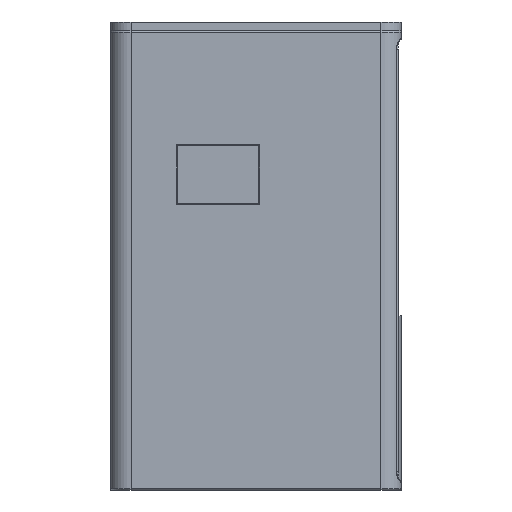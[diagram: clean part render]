
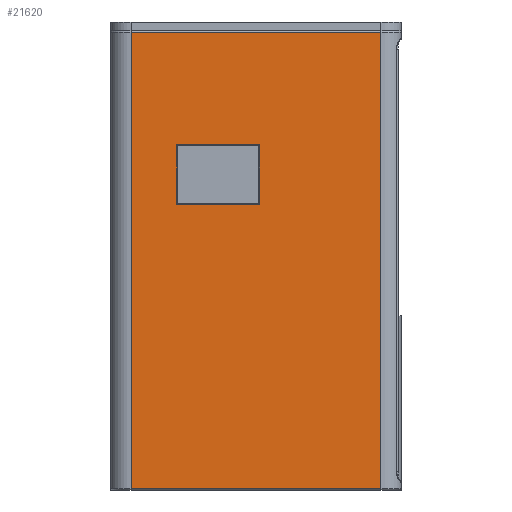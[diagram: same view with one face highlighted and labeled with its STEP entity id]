
A CAD part, left-side view. The second image highlights one B-rep face of the part: STEP entity #21620.
In plain terms, the highlighted planar face has unit normal (-1, 0, 0).
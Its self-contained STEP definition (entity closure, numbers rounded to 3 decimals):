
#17002 = CYLINDRICAL_SURFACE('',#17003,7.);
#17003 = AXIS2_PLACEMENT_3D('',#17004,#17005,#17006);
#17004 = CARTESIAN_POINT('',(7.,7.,0.));
#17005 = DIRECTION('',(0.,0.,1.));
#17006 = DIRECTION('',(-1.,-0.,0.));
#18797 = PLANE('',#18798);
#18798 = AXIS2_PLACEMENT_3D('',#18799,#18800,#18801);
#18799 = CARTESIAN_POINT('',(0.15,77.,98.35));
#18800 = DIRECTION('',(0.707,0.,
    -0.707));
#18801 = DIRECTION('',(0.,-1.,0.));
#18851 = PLANE('',#18852);
#18852 = AXIS2_PLACEMENT_3D('',#18853,#18854,#18855);
#18853 = CARTESIAN_POINT('',(0.15,77.15,98.5));
#18854 = DIRECTION('',(-0.707,-0.707,
    0.));
#18855 = DIRECTION('',(0.,0.,1.));
#18905 = PLANE('',#18906);
#18906 = AXIS2_PLACEMENT_3D('',#18907,#18908,#18909);
#18907 = CARTESIAN_POINT('',(0.15,48.85,98.5));
#18908 = DIRECTION('',(0.707,-0.707,
    0.));
#18909 = DIRECTION('',(0.,0.,1.));
#18957 = PLANE('',#18958);
#18958 = AXIS2_PLACEMENT_3D('',#18959,#18960,#18961);
#18959 = CARTESIAN_POINT('',(0.15,77.,118.65));
#18960 = DIRECTION('',(-0.707,0.,
    -0.707));
#18961 = DIRECTION('',(0.,-1.,0.));
#19147 = CYLINDRICAL_SURFACE('',#19148,0.5);
#19148 = AXIS2_PLACEMENT_3D('',#19149,#19150,#19151);
#19149 = CARTESIAN_POINT('',(0.5,7.,157.5));
#19150 = DIRECTION('',(-0.,1.,0.));
#19151 = DIRECTION('',(0.,0.,1.));
#19814 = VERTEX_POINT('',#19815);
#19815 = CARTESIAN_POINT('',(0.,7.,157.5));
#19837 = EDGE_CURVE('',#19838,#19814,#19840,.T.);
#19838 = VERTEX_POINT('',#19839);
#19839 = CARTESIAN_POINT('',(0.,7.,0.5));
#19840 = SURFACE_CURVE('',#19841,(#19845,#19852),.PCURVE_S1.);
#19841 = LINE('',#19842,#19843);
#19842 = CARTESIAN_POINT('',(0.,7.,0.));
#19843 = VECTOR('',#19844,1.);
#19844 = DIRECTION('',(0.,0.,1.));
#19845 = PCURVE('',#17002,#19846);
#19846 = DEFINITIONAL_REPRESENTATION('',(#19847),#19851);
#19847 = LINE('',#19848,#19849);
#19848 = CARTESIAN_POINT('',(0.,0.));
#19849 = VECTOR('',#19850,1.);
#19850 = DIRECTION('',(0.,1.));
#19851 = ( GEOMETRIC_REPRESENTATION_CONTEXT(2)
PARAMETRIC_REPRESENTATION_CONTEXT() REPRESENTATION_CONTEXT('2D SPACE',''
  ) );
#19852 = PCURVE('',#19853,#19858);
#19853 = PLANE('',#19854);
#19854 = AXIS2_PLACEMENT_3D('',#19855,#19856,#19857);
#19855 = CARTESIAN_POINT('',(0.,0.,0.));
#19856 = DIRECTION('',(1.,0.,-0.));
#19857 = DIRECTION('',(0.,0.,1.));
#19858 = DEFINITIONAL_REPRESENTATION('',(#19859),#19863);
#19859 = LINE('',#19860,#19861);
#19860 = CARTESIAN_POINT('',(0.,-7.));
#19861 = VECTOR('',#19862,1.);
#19862 = DIRECTION('',(1.,0.));
#19863 = ( GEOMETRIC_REPRESENTATION_CONTEXT(2)
PARAMETRIC_REPRESENTATION_CONTEXT() REPRESENTATION_CONTEXT('2D SPACE',''
  ) );
#20173 = VERTEX_POINT('',#20174);
#20174 = CARTESIAN_POINT('',(0.,77.3,98.2));
#20197 = VERTEX_POINT('',#20198);
#20198 = CARTESIAN_POINT('',(0.,48.7,98.2));
#20219 = EDGE_CURVE('',#20173,#20197,#20220,.T.);
#20220 = SURFACE_CURVE('',#20221,(#20225,#20232),.PCURVE_S1.);
#20221 = LINE('',#20222,#20223);
#20222 = CARTESIAN_POINT('',(0.,77.,98.2));
#20223 = VECTOR('',#20224,1.);
#20224 = DIRECTION('',(0.,-1.,0.));
#20225 = PCURVE('',#18797,#20226);
#20226 = DEFINITIONAL_REPRESENTATION('',(#20227),#20231);
#20227 = LINE('',#20228,#20229);
#20228 = CARTESIAN_POINT('',(0.,0.212));
#20229 = VECTOR('',#20230,1.);
#20230 = DIRECTION('',(1.,0.));
#20231 = ( GEOMETRIC_REPRESENTATION_CONTEXT(2)
PARAMETRIC_REPRESENTATION_CONTEXT() REPRESENTATION_CONTEXT('2D SPACE',''
  ) );
#20232 = PCURVE('',#19853,#20233);
#20233 = DEFINITIONAL_REPRESENTATION('',(#20234),#20238);
#20234 = LINE('',#20235,#20236);
#20235 = CARTESIAN_POINT('',(98.2,-77.));
#20236 = VECTOR('',#20237,1.);
#20237 = DIRECTION('',(0.,1.));
#20238 = ( GEOMETRIC_REPRESENTATION_CONTEXT(2)
PARAMETRIC_REPRESENTATION_CONTEXT() REPRESENTATION_CONTEXT('2D SPACE',''
  ) );
#20246 = VERTEX_POINT('',#20247);
#20247 = CARTESIAN_POINT('',(0.,77.3,118.8));
#20268 = EDGE_CURVE('',#20173,#20246,#20269,.T.);
#20269 = SURFACE_CURVE('',#20270,(#20274,#20281),.PCURVE_S1.);
#20270 = LINE('',#20271,#20272);
#20271 = CARTESIAN_POINT('',(0.,77.3,98.5));
#20272 = VECTOR('',#20273,1.);
#20273 = DIRECTION('',(0.,0.,1.));
#20274 = PCURVE('',#18851,#20275);
#20275 = DEFINITIONAL_REPRESENTATION('',(#20276),#20280);
#20276 = LINE('',#20277,#20278);
#20277 = CARTESIAN_POINT('',(0.,0.212));
#20278 = VECTOR('',#20279,1.);
#20279 = DIRECTION('',(1.,0.));
#20280 = ( GEOMETRIC_REPRESENTATION_CONTEXT(2)
PARAMETRIC_REPRESENTATION_CONTEXT() REPRESENTATION_CONTEXT('2D SPACE',''
  ) );
#20281 = PCURVE('',#19853,#20282);
#20282 = DEFINITIONAL_REPRESENTATION('',(#20283),#20287);
#20283 = LINE('',#20284,#20285);
#20284 = CARTESIAN_POINT('',(98.5,-77.3));
#20285 = VECTOR('',#20286,1.);
#20286 = DIRECTION('',(1.,0.));
#20287 = ( GEOMETRIC_REPRESENTATION_CONTEXT(2)
PARAMETRIC_REPRESENTATION_CONTEXT() REPRESENTATION_CONTEXT('2D SPACE',''
  ) );
#20295 = VERTEX_POINT('',#20296);
#20296 = CARTESIAN_POINT('',(0.,48.7,118.8));
#20317 = EDGE_CURVE('',#20197,#20295,#20318,.T.);
#20318 = SURFACE_CURVE('',#20319,(#20323,#20330),.PCURVE_S1.);
#20319 = LINE('',#20320,#20321);
#20320 = CARTESIAN_POINT('',(0.,48.7,98.5));
#20321 = VECTOR('',#20322,1.);
#20322 = DIRECTION('',(0.,0.,1.));
#20323 = PCURVE('',#18905,#20324);
#20324 = DEFINITIONAL_REPRESENTATION('',(#20325),#20329);
#20325 = LINE('',#20326,#20327);
#20326 = CARTESIAN_POINT('',(0.,0.212));
#20327 = VECTOR('',#20328,1.);
#20328 = DIRECTION('',(1.,0.));
#20329 = ( GEOMETRIC_REPRESENTATION_CONTEXT(2)
PARAMETRIC_REPRESENTATION_CONTEXT() REPRESENTATION_CONTEXT('2D SPACE',''
  ) );
#20330 = PCURVE('',#19853,#20331);
#20331 = DEFINITIONAL_REPRESENTATION('',(#20332),#20336);
#20332 = LINE('',#20333,#20334);
#20333 = CARTESIAN_POINT('',(98.5,-48.7));
#20334 = VECTOR('',#20335,1.);
#20335 = DIRECTION('',(1.,0.));
#20336 = ( GEOMETRIC_REPRESENTATION_CONTEXT(2)
PARAMETRIC_REPRESENTATION_CONTEXT() REPRESENTATION_CONTEXT('2D SPACE',''
  ) );
#20344 = EDGE_CURVE('',#20246,#20295,#20345,.T.);
#20345 = SURFACE_CURVE('',#20346,(#20350,#20357),.PCURVE_S1.);
#20346 = LINE('',#20347,#20348);
#20347 = CARTESIAN_POINT('',(0.,77.,118.8));
#20348 = VECTOR('',#20349,1.);
#20349 = DIRECTION('',(0.,-1.,0.));
#20350 = PCURVE('',#18957,#20351);
#20351 = DEFINITIONAL_REPRESENTATION('',(#20352),#20356);
#20352 = LINE('',#20353,#20354);
#20353 = CARTESIAN_POINT('',(0.,0.212));
#20354 = VECTOR('',#20355,1.);
#20355 = DIRECTION('',(1.,0.));
#20356 = ( GEOMETRIC_REPRESENTATION_CONTEXT(2)
PARAMETRIC_REPRESENTATION_CONTEXT() REPRESENTATION_CONTEXT('2D SPACE',''
  ) );
#20357 = PCURVE('',#19853,#20358);
#20358 = DEFINITIONAL_REPRESENTATION('',(#20359),#20363);
#20359 = LINE('',#20360,#20361);
#20360 = CARTESIAN_POINT('',(118.8,-77.));
#20361 = VECTOR('',#20362,1.);
#20362 = DIRECTION('',(0.,1.));
#20363 = ( GEOMETRIC_REPRESENTATION_CONTEXT(2)
PARAMETRIC_REPRESENTATION_CONTEXT() REPRESENTATION_CONTEXT('2D SPACE',''
  ) );
#20621 = EDGE_CURVE('',#19814,#20622,#20624,.T.);
#20622 = VERTEX_POINT('',#20623);
#20623 = CARTESIAN_POINT('',(0.,93.,157.5));
#20624 = SURFACE_CURVE('',#20625,(#20629,#20636),.PCURVE_S1.);
#20625 = LINE('',#20626,#20627);
#20626 = CARTESIAN_POINT('',(0.,7.,157.5));
#20627 = VECTOR('',#20628,1.);
#20628 = DIRECTION('',(-0.,1.,0.));
#20629 = PCURVE('',#19147,#20630);
#20630 = DEFINITIONAL_REPRESENTATION('',(#20631),#20635);
#20631 = LINE('',#20632,#20633);
#20632 = CARTESIAN_POINT('',(-1.571,0.));
#20633 = VECTOR('',#20634,1.);
#20634 = DIRECTION('',(-0.,1.));
#20635 = ( GEOMETRIC_REPRESENTATION_CONTEXT(2)
PARAMETRIC_REPRESENTATION_CONTEXT() REPRESENTATION_CONTEXT('2D SPACE',''
  ) );
#20636 = PCURVE('',#19853,#20637);
#20637 = DEFINITIONAL_REPRESENTATION('',(#20638),#20642);
#20638 = LINE('',#20639,#20640);
#20639 = CARTESIAN_POINT('',(157.5,-7.));
#20640 = VECTOR('',#20641,1.);
#20641 = DIRECTION('',(0.,-1.));
#20642 = ( GEOMETRIC_REPRESENTATION_CONTEXT(2)
PARAMETRIC_REPRESENTATION_CONTEXT() REPRESENTATION_CONTEXT('2D SPACE',''
  ) );
#20686 = CYLINDRICAL_SURFACE('',#20687,7.);
#20687 = AXIS2_PLACEMENT_3D('',#20688,#20689,#20690);
#20688 = CARTESIAN_POINT('',(7.,93.,0.));
#20689 = DIRECTION('',(0.,0.,1.));
#20690 = DIRECTION('',(-1.,-0.,0.));
#21609 = CYLINDRICAL_SURFACE('',#21610,0.5);
#21610 = AXIS2_PLACEMENT_3D('',#21611,#21612,#21613);
#21611 = CARTESIAN_POINT('',(0.5,7.,0.5));
#21612 = DIRECTION('',(-0.,1.,0.));
#21613 = DIRECTION('',(-0.,0.,-1.));
#21620 = ADVANCED_FACE('',(#21621,#21627),#19853,.F.);
#21621 = FACE_BOUND('',#21622,.F.);
#21622 = EDGE_LOOP('',(#21623,#21624,#21625,#21626));
#21623 = ORIENTED_EDGE('',*,*,#20219,.T.);
#21624 = ORIENTED_EDGE('',*,*,#20317,.T.);
#21625 = ORIENTED_EDGE('',*,*,#20344,.F.);
#21626 = ORIENTED_EDGE('',*,*,#20268,.F.);
#21627 = FACE_BOUND('',#21628,.F.);
#21628 = EDGE_LOOP('',(#21629,#21630,#21653,#21674));
#21629 = ORIENTED_EDGE('',*,*,#19837,.F.);
#21630 = ORIENTED_EDGE('',*,*,#21631,.T.);
#21631 = EDGE_CURVE('',#19838,#21632,#21634,.T.);
#21632 = VERTEX_POINT('',#21633);
#21633 = CARTESIAN_POINT('',(0.,93.,0.5));
#21634 = SURFACE_CURVE('',#21635,(#21639,#21646),.PCURVE_S1.);
#21635 = LINE('',#21636,#21637);
#21636 = CARTESIAN_POINT('',(0.,7.,0.5));
#21637 = VECTOR('',#21638,1.);
#21638 = DIRECTION('',(-0.,1.,0.));
#21639 = PCURVE('',#19853,#21640);
#21640 = DEFINITIONAL_REPRESENTATION('',(#21641),#21645);
#21641 = LINE('',#21642,#21643);
#21642 = CARTESIAN_POINT('',(0.5,-7.));
#21643 = VECTOR('',#21644,1.);
#21644 = DIRECTION('',(0.,-1.));
#21645 = ( GEOMETRIC_REPRESENTATION_CONTEXT(2)
PARAMETRIC_REPRESENTATION_CONTEXT() REPRESENTATION_CONTEXT('2D SPACE',''
  ) );
#21646 = PCURVE('',#21609,#21647);
#21647 = DEFINITIONAL_REPRESENTATION('',(#21648),#21652);
#21648 = LINE('',#21649,#21650);
#21649 = CARTESIAN_POINT('',(1.571,0.));
#21650 = VECTOR('',#21651,1.);
#21651 = DIRECTION('',(0.,1.));
#21652 = ( GEOMETRIC_REPRESENTATION_CONTEXT(2)
PARAMETRIC_REPRESENTATION_CONTEXT() REPRESENTATION_CONTEXT('2D SPACE',''
  ) );
#21653 = ORIENTED_EDGE('',*,*,#21654,.T.);
#21654 = EDGE_CURVE('',#21632,#20622,#21655,.T.);
#21655 = SURFACE_CURVE('',#21656,(#21660,#21667),.PCURVE_S1.);
#21656 = LINE('',#21657,#21658);
#21657 = CARTESIAN_POINT('',(0.,93.,0.));
#21658 = VECTOR('',#21659,1.);
#21659 = DIRECTION('',(0.,0.,1.));
#21660 = PCURVE('',#19853,#21661);
#21661 = DEFINITIONAL_REPRESENTATION('',(#21662),#21666);
#21662 = LINE('',#21663,#21664);
#21663 = CARTESIAN_POINT('',(0.,-93.));
#21664 = VECTOR('',#21665,1.);
#21665 = DIRECTION('',(1.,0.));
#21666 = ( GEOMETRIC_REPRESENTATION_CONTEXT(2)
PARAMETRIC_REPRESENTATION_CONTEXT() REPRESENTATION_CONTEXT('2D SPACE',''
  ) );
#21667 = PCURVE('',#20686,#21668);
#21668 = DEFINITIONAL_REPRESENTATION('',(#21669),#21673);
#21669 = LINE('',#21670,#21671);
#21670 = CARTESIAN_POINT('',(-0.,0.));
#21671 = VECTOR('',#21672,1.);
#21672 = DIRECTION('',(-0.,1.));
#21673 = ( GEOMETRIC_REPRESENTATION_CONTEXT(2)
PARAMETRIC_REPRESENTATION_CONTEXT() REPRESENTATION_CONTEXT('2D SPACE',''
  ) );
#21674 = ORIENTED_EDGE('',*,*,#20621,.F.);
